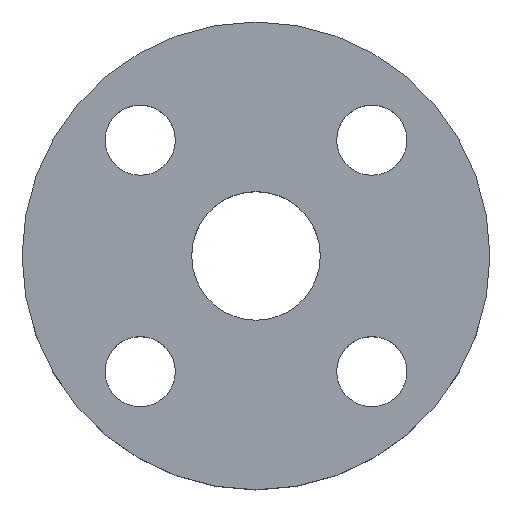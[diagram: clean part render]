
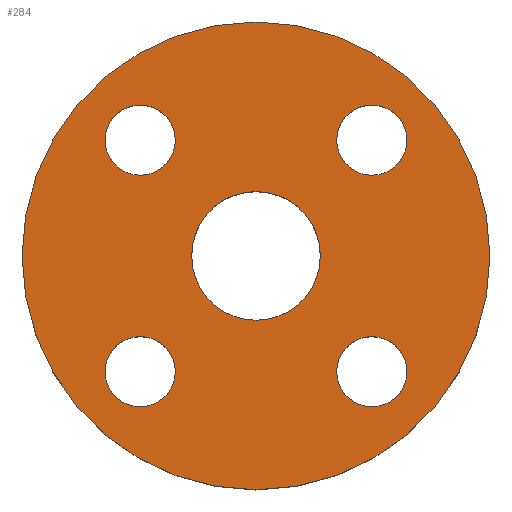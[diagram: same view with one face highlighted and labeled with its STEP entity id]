
A CAD part, top view. The second image highlights one B-rep face of the part: STEP entity #284.
In plain terms, the highlighted planar face has unit normal (0, 0, 1).
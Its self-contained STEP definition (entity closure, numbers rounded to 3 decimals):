
#24 = VERTEX_POINT('',#25);
#25 = CARTESIAN_POINT('',(10.,0.,5.));
#32 = CYLINDRICAL_SURFACE('',#33,10.);
#33 = AXIS2_PLACEMENT_3D('',#34,#35,#36);
#34 = CARTESIAN_POINT('',(0.,0.,0.));
#35 = DIRECTION('',(-0.,-0.,-1.));
#36 = DIRECTION('',(1.,0.,0.));
#51 = EDGE_CURVE('',#24,#24,#52,.T.);
#52 = SURFACE_CURVE('',#53,(#58,#65),.PCURVE_S1.);
#53 = CIRCLE('',#54,10.);
#54 = AXIS2_PLACEMENT_3D('',#55,#56,#57);
#55 = CARTESIAN_POINT('',(0.,0.,5.));
#56 = DIRECTION('',(0.,0.,1.));
#57 = DIRECTION('',(1.,0.,0.));
#58 = PCURVE('',#32,#59);
#59 = DEFINITIONAL_REPRESENTATION('',(#60),#64);
#60 = LINE('',#61,#62);
#61 = CARTESIAN_POINT('',(-0.,-5.));
#62 = VECTOR('',#63,1.);
#63 = DIRECTION('',(-1.,0.));
#64 = ( GEOMETRIC_REPRESENTATION_CONTEXT(2) 
PARAMETRIC_REPRESENTATION_CONTEXT() REPRESENTATION_CONTEXT('2D SPACE',''
  ) );
#65 = PCURVE('',#66,#71);
#66 = PLANE('',#67);
#67 = AXIS2_PLACEMENT_3D('',#68,#69,#70);
#68 = CARTESIAN_POINT('',(0.,0.,5.));
#69 = DIRECTION('',(0.,0.,1.));
#70 = DIRECTION('',(1.,0.,-0.));
#71 = DEFINITIONAL_REPRESENTATION('',(#72),#76);
#72 = CIRCLE('',#73,10.);
#73 = AXIS2_PLACEMENT_2D('',#74,#75);
#74 = CARTESIAN_POINT('',(0.,0.));
#75 = DIRECTION('',(1.,0.));
#76 = ( GEOMETRIC_REPRESENTATION_CONTEXT(2) 
PARAMETRIC_REPRESENTATION_CONTEXT() REPRESENTATION_CONTEXT('2D SPACE',''
  ) );
#133 = CYLINDRICAL_SURFACE('',#134,1.5);
#134 = AXIS2_PLACEMENT_3D('',#135,#136,#137);
#135 = CARTESIAN_POINT('',(-4.95,-4.95,5.));
#136 = DIRECTION('',(0.,0.,-1.));
#137 = DIRECTION('',(-1.,0.,0.));
#168 = CYLINDRICAL_SURFACE('',#169,1.5);
#169 = AXIS2_PLACEMENT_3D('',#170,#171,#172);
#170 = CARTESIAN_POINT('',(4.95,-4.95,5.));
#171 = DIRECTION('',(0.,0.,-1.));
#172 = DIRECTION('',(-1.,0.,0.));
#203 = CYLINDRICAL_SURFACE('',#204,1.5);
#204 = AXIS2_PLACEMENT_3D('',#205,#206,#207);
#205 = CARTESIAN_POINT('',(-4.95,4.95,5.));
#206 = DIRECTION('',(0.,0.,-1.));
#207 = DIRECTION('',(-1.,0.,0.));
#238 = CYLINDRICAL_SURFACE('',#239,2.75);
#239 = AXIS2_PLACEMENT_3D('',#240,#241,#242);
#240 = CARTESIAN_POINT('',(0.,0.,5.));
#241 = DIRECTION('',(0.,0.,-1.));
#242 = DIRECTION('',(-1.,0.,0.));
#273 = CYLINDRICAL_SURFACE('',#274,1.5);
#274 = AXIS2_PLACEMENT_3D('',#275,#276,#277);
#275 = CARTESIAN_POINT('',(4.95,4.95,5.));
#276 = DIRECTION('',(0.,0.,-1.));
#277 = DIRECTION('',(-1.,0.,0.));
#284 = ADVANCED_FACE('',(#285,#288,#318,#348,#378,#408),#66,.T.);
#285 = FACE_BOUND('',#286,.T.);
#286 = EDGE_LOOP('',(#287));
#287 = ORIENTED_EDGE('',*,*,#51,.T.);
#288 = FACE_BOUND('',#289,.T.);
#289 = EDGE_LOOP('',(#290));
#290 = ORIENTED_EDGE('',*,*,#291,.T.);
#291 = EDGE_CURVE('',#292,#292,#294,.T.);
#292 = VERTEX_POINT('',#293);
#293 = CARTESIAN_POINT('',(-6.45,-4.95,5.));
#294 = SURFACE_CURVE('',#295,(#300,#311),.PCURVE_S1.);
#295 = CIRCLE('',#296,1.5);
#296 = AXIS2_PLACEMENT_3D('',#297,#298,#299);
#297 = CARTESIAN_POINT('',(-4.95,-4.95,5.));
#298 = DIRECTION('',(0.,0.,-1.));
#299 = DIRECTION('',(-1.,0.,0.));
#300 = PCURVE('',#66,#301);
#301 = DEFINITIONAL_REPRESENTATION('',(#302),#310);
#302 = ( BOUNDED_CURVE() B_SPLINE_CURVE(2,(#303,#304,#305,#306,#307,#308
,#309),.UNSPECIFIED.,.T.,.F.) B_SPLINE_CURVE_WITH_KNOTS((1,2,2,2,2,1),(
    -2.094,0.,2.094,4.189,6.283,
8.378),.UNSPECIFIED.) CURVE() GEOMETRIC_REPRESENTATION_ITEM() 
RATIONAL_B_SPLINE_CURVE((1.,0.5,1.,0.5,1.,0.5,1.)) REPRESENTATION_ITEM(
  '') );
#303 = CARTESIAN_POINT('',(-6.45,-4.95));
#304 = CARTESIAN_POINT('',(-6.45,-2.352));
#305 = CARTESIAN_POINT('',(-4.2,-3.651));
#306 = CARTESIAN_POINT('',(-1.95,-4.95));
#307 = CARTESIAN_POINT('',(-4.2,-6.249));
#308 = CARTESIAN_POINT('',(-6.45,-7.548));
#309 = CARTESIAN_POINT('',(-6.45,-4.95));
#310 = ( GEOMETRIC_REPRESENTATION_CONTEXT(2) 
PARAMETRIC_REPRESENTATION_CONTEXT() REPRESENTATION_CONTEXT('2D SPACE',''
  ) );
#311 = PCURVE('',#133,#312);
#312 = DEFINITIONAL_REPRESENTATION('',(#313),#317);
#313 = LINE('',#314,#315);
#314 = CARTESIAN_POINT('',(0.,0.));
#315 = VECTOR('',#316,1.);
#316 = DIRECTION('',(1.,0.));
#317 = ( GEOMETRIC_REPRESENTATION_CONTEXT(2) 
PARAMETRIC_REPRESENTATION_CONTEXT() REPRESENTATION_CONTEXT('2D SPACE',''
  ) );
#318 = FACE_BOUND('',#319,.T.);
#319 = EDGE_LOOP('',(#320));
#320 = ORIENTED_EDGE('',*,*,#321,.T.);
#321 = EDGE_CURVE('',#322,#322,#324,.T.);
#322 = VERTEX_POINT('',#323);
#323 = CARTESIAN_POINT('',(3.45,-4.95,5.));
#324 = SURFACE_CURVE('',#325,(#330,#341),.PCURVE_S1.);
#325 = CIRCLE('',#326,1.5);
#326 = AXIS2_PLACEMENT_3D('',#327,#328,#329);
#327 = CARTESIAN_POINT('',(4.95,-4.95,5.));
#328 = DIRECTION('',(0.,0.,-1.));
#329 = DIRECTION('',(-1.,0.,0.));
#330 = PCURVE('',#66,#331);
#331 = DEFINITIONAL_REPRESENTATION('',(#332),#340);
#332 = ( BOUNDED_CURVE() B_SPLINE_CURVE(2,(#333,#334,#335,#336,#337,#338
,#339),.UNSPECIFIED.,.T.,.F.) B_SPLINE_CURVE_WITH_KNOTS((1,2,2,2,2,1),(
    -2.094,0.,2.094,4.189,6.283,
8.378),.UNSPECIFIED.) CURVE() GEOMETRIC_REPRESENTATION_ITEM() 
RATIONAL_B_SPLINE_CURVE((1.,0.5,1.,0.5,1.,0.5,1.)) REPRESENTATION_ITEM(
  '') );
#333 = CARTESIAN_POINT('',(3.45,-4.95));
#334 = CARTESIAN_POINT('',(3.45,-2.352));
#335 = CARTESIAN_POINT('',(5.7,-3.651));
#336 = CARTESIAN_POINT('',(7.95,-4.95));
#337 = CARTESIAN_POINT('',(5.7,-6.249));
#338 = CARTESIAN_POINT('',(3.45,-7.548));
#339 = CARTESIAN_POINT('',(3.45,-4.95));
#340 = ( GEOMETRIC_REPRESENTATION_CONTEXT(2) 
PARAMETRIC_REPRESENTATION_CONTEXT() REPRESENTATION_CONTEXT('2D SPACE',''
  ) );
#341 = PCURVE('',#168,#342);
#342 = DEFINITIONAL_REPRESENTATION('',(#343),#347);
#343 = LINE('',#344,#345);
#344 = CARTESIAN_POINT('',(0.,0.));
#345 = VECTOR('',#346,1.);
#346 = DIRECTION('',(1.,0.));
#347 = ( GEOMETRIC_REPRESENTATION_CONTEXT(2) 
PARAMETRIC_REPRESENTATION_CONTEXT() REPRESENTATION_CONTEXT('2D SPACE',''
  ) );
#348 = FACE_BOUND('',#349,.T.);
#349 = EDGE_LOOP('',(#350));
#350 = ORIENTED_EDGE('',*,*,#351,.T.);
#351 = EDGE_CURVE('',#352,#352,#354,.T.);
#352 = VERTEX_POINT('',#353);
#353 = CARTESIAN_POINT('',(-6.45,4.95,5.));
#354 = SURFACE_CURVE('',#355,(#360,#371),.PCURVE_S1.);
#355 = CIRCLE('',#356,1.5);
#356 = AXIS2_PLACEMENT_3D('',#357,#358,#359);
#357 = CARTESIAN_POINT('',(-4.95,4.95,5.));
#358 = DIRECTION('',(0.,0.,-1.));
#359 = DIRECTION('',(-1.,0.,0.));
#360 = PCURVE('',#66,#361);
#361 = DEFINITIONAL_REPRESENTATION('',(#362),#370);
#362 = ( BOUNDED_CURVE() B_SPLINE_CURVE(2,(#363,#364,#365,#366,#367,#368
,#369),.UNSPECIFIED.,.T.,.F.) B_SPLINE_CURVE_WITH_KNOTS((1,2,2,2,2,1),(
    -2.094,0.,2.094,4.189,6.283,
8.378),.UNSPECIFIED.) CURVE() GEOMETRIC_REPRESENTATION_ITEM() 
RATIONAL_B_SPLINE_CURVE((1.,0.5,1.,0.5,1.,0.5,1.)) REPRESENTATION_ITEM(
  '') );
#363 = CARTESIAN_POINT('',(-6.45,4.95));
#364 = CARTESIAN_POINT('',(-6.45,7.548));
#365 = CARTESIAN_POINT('',(-4.2,6.249));
#366 = CARTESIAN_POINT('',(-1.95,4.95));
#367 = CARTESIAN_POINT('',(-4.2,3.651));
#368 = CARTESIAN_POINT('',(-6.45,2.352));
#369 = CARTESIAN_POINT('',(-6.45,4.95));
#370 = ( GEOMETRIC_REPRESENTATION_CONTEXT(2) 
PARAMETRIC_REPRESENTATION_CONTEXT() REPRESENTATION_CONTEXT('2D SPACE',''
  ) );
#371 = PCURVE('',#203,#372);
#372 = DEFINITIONAL_REPRESENTATION('',(#373),#377);
#373 = LINE('',#374,#375);
#374 = CARTESIAN_POINT('',(0.,0.));
#375 = VECTOR('',#376,1.);
#376 = DIRECTION('',(1.,0.));
#377 = ( GEOMETRIC_REPRESENTATION_CONTEXT(2) 
PARAMETRIC_REPRESENTATION_CONTEXT() REPRESENTATION_CONTEXT('2D SPACE',''
  ) );
#378 = FACE_BOUND('',#379,.T.);
#379 = EDGE_LOOP('',(#380));
#380 = ORIENTED_EDGE('',*,*,#381,.T.);
#381 = EDGE_CURVE('',#382,#382,#384,.T.);
#382 = VERTEX_POINT('',#383);
#383 = CARTESIAN_POINT('',(-2.75,0.,5.));
#384 = SURFACE_CURVE('',#385,(#390,#401),.PCURVE_S1.);
#385 = CIRCLE('',#386,2.75);
#386 = AXIS2_PLACEMENT_3D('',#387,#388,#389);
#387 = CARTESIAN_POINT('',(0.,0.,5.));
#388 = DIRECTION('',(0.,0.,-1.));
#389 = DIRECTION('',(-1.,0.,0.));
#390 = PCURVE('',#66,#391);
#391 = DEFINITIONAL_REPRESENTATION('',(#392),#400);
#392 = ( BOUNDED_CURVE() B_SPLINE_CURVE(2,(#393,#394,#395,#396,#397,#398
,#399),.UNSPECIFIED.,.T.,.F.) B_SPLINE_CURVE_WITH_KNOTS((1,2,2,2,2,1),(
    -2.094,0.,2.094,4.189,6.283,
8.378),.UNSPECIFIED.) CURVE() GEOMETRIC_REPRESENTATION_ITEM() 
RATIONAL_B_SPLINE_CURVE((1.,0.5,1.,0.5,1.,0.5,1.)) REPRESENTATION_ITEM(
  '') );
#393 = CARTESIAN_POINT('',(-2.75,0.));
#394 = CARTESIAN_POINT('',(-2.75,4.763));
#395 = CARTESIAN_POINT('',(1.375,2.382));
#396 = CARTESIAN_POINT('',(5.5,0.));
#397 = CARTESIAN_POINT('',(1.375,-2.382));
#398 = CARTESIAN_POINT('',(-2.75,-4.763));
#399 = CARTESIAN_POINT('',(-2.75,0.));
#400 = ( GEOMETRIC_REPRESENTATION_CONTEXT(2) 
PARAMETRIC_REPRESENTATION_CONTEXT() REPRESENTATION_CONTEXT('2D SPACE',''
  ) );
#401 = PCURVE('',#238,#402);
#402 = DEFINITIONAL_REPRESENTATION('',(#403),#407);
#403 = LINE('',#404,#405);
#404 = CARTESIAN_POINT('',(0.,0.));
#405 = VECTOR('',#406,1.);
#406 = DIRECTION('',(1.,0.));
#407 = ( GEOMETRIC_REPRESENTATION_CONTEXT(2) 
PARAMETRIC_REPRESENTATION_CONTEXT() REPRESENTATION_CONTEXT('2D SPACE',''
  ) );
#408 = FACE_BOUND('',#409,.T.);
#409 = EDGE_LOOP('',(#410));
#410 = ORIENTED_EDGE('',*,*,#411,.T.);
#411 = EDGE_CURVE('',#412,#412,#414,.T.);
#412 = VERTEX_POINT('',#413);
#413 = CARTESIAN_POINT('',(3.45,4.95,5.));
#414 = SURFACE_CURVE('',#415,(#420,#431),.PCURVE_S1.);
#415 = CIRCLE('',#416,1.5);
#416 = AXIS2_PLACEMENT_3D('',#417,#418,#419);
#417 = CARTESIAN_POINT('',(4.95,4.95,5.));
#418 = DIRECTION('',(0.,0.,-1.));
#419 = DIRECTION('',(-1.,0.,0.));
#420 = PCURVE('',#66,#421);
#421 = DEFINITIONAL_REPRESENTATION('',(#422),#430);
#422 = ( BOUNDED_CURVE() B_SPLINE_CURVE(2,(#423,#424,#425,#426,#427,#428
,#429),.UNSPECIFIED.,.T.,.F.) B_SPLINE_CURVE_WITH_KNOTS((1,2,2,2,2,1),(
    -2.094,0.,2.094,4.189,6.283,
8.378),.UNSPECIFIED.) CURVE() GEOMETRIC_REPRESENTATION_ITEM() 
RATIONAL_B_SPLINE_CURVE((1.,0.5,1.,0.5,1.,0.5,1.)) REPRESENTATION_ITEM(
  '') );
#423 = CARTESIAN_POINT('',(3.45,4.95));
#424 = CARTESIAN_POINT('',(3.45,7.548));
#425 = CARTESIAN_POINT('',(5.7,6.249));
#426 = CARTESIAN_POINT('',(7.95,4.95));
#427 = CARTESIAN_POINT('',(5.7,3.651));
#428 = CARTESIAN_POINT('',(3.45,2.352));
#429 = CARTESIAN_POINT('',(3.45,4.95));
#430 = ( GEOMETRIC_REPRESENTATION_CONTEXT(2) 
PARAMETRIC_REPRESENTATION_CONTEXT() REPRESENTATION_CONTEXT('2D SPACE',''
  ) );
#431 = PCURVE('',#273,#432);
#432 = DEFINITIONAL_REPRESENTATION('',(#433),#437);
#433 = LINE('',#434,#435);
#434 = CARTESIAN_POINT('',(0.,0.));
#435 = VECTOR('',#436,1.);
#436 = DIRECTION('',(1.,0.));
#437 = ( GEOMETRIC_REPRESENTATION_CONTEXT(2) 
PARAMETRIC_REPRESENTATION_CONTEXT() REPRESENTATION_CONTEXT('2D SPACE',''
  ) );
